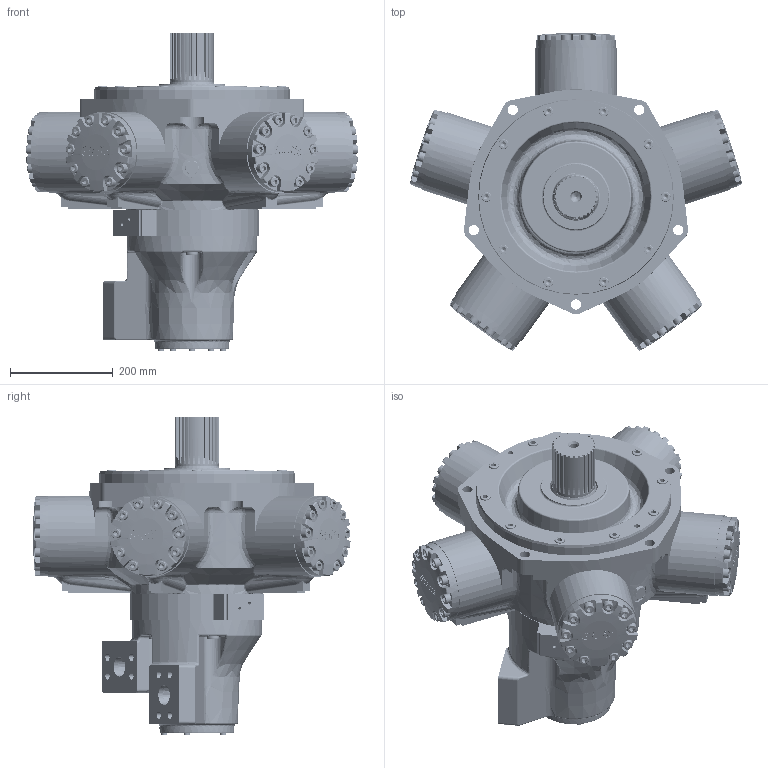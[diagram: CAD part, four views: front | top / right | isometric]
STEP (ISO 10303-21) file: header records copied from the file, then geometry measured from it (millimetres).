
FILE_DESCRIPTION((''),'2;1');
FILE_NAME('I:\3D Step files\APPROVED 3D MODELS FOR WEB\Staffa\HMC200 Z FM4 X 70.stp','2009-12-10T14:07:25',('mnorman'),(''),'Autodesk Inventor 2010','Autodesk Inventor 2010','');
FILE_SCHEMA(('AUTOMOTIVE_DESIGN { 1 0 10303 214 1 1 1 1 }'));
Length unit declared in the file: millimetre
Products named in the file (1): Part5
Bounding box: 646.73 x 617.86 x 621.21 mm (x, y, z)
Volume: 31738782 mm3; surface area: 2590983.1 mm2
Topology: 136 solids, 136 shells, 4105 faces, 9869 edges, 6195 vertices
Faces by surface type: bspline 1506, plane 1407, cylinder 728, cone 289, torus 171, sphere 4
Full cylindrical faces by diameter (mm): 3.175 x2, 7.938 x6, 11.913 x5, 12.7 x61, 13.5 x25, 15.875 x5, 16.272 x5, 16.7 x5, 19.05 x70, 20.6 x25, 22.2 x5, 23.825 x5, 25 x5, 25.4 x5, 27.68 x5, 28.677 x5, 38.1 x5, 38.176 x5, 38.18 x5, 51.206 x1, 55.118 x3, 61.468 x2, 64.643 x6, 65.1 x1, 65.126 x1, 79.375 x1, 84.392 x1, 88.836 x1, 88.9 x1, 88.951 x1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
Entity records: 166210 total; most frequent: CARTESIAN_POINT 82681, ORIENTED_EDGE 16784, DIRECTION 13311, EDGE_CURVE 8392, VERTEX_POINT 5728, EDGE_LOOP 5440, AXIS2_PLACEMENT_3D 5123, FACE_OUTER_BOUND 4100
